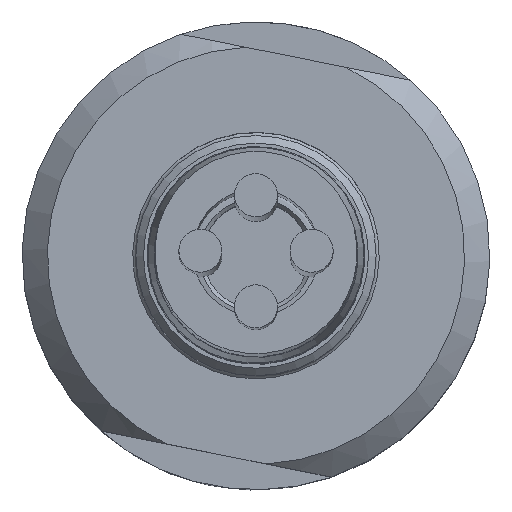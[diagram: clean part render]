
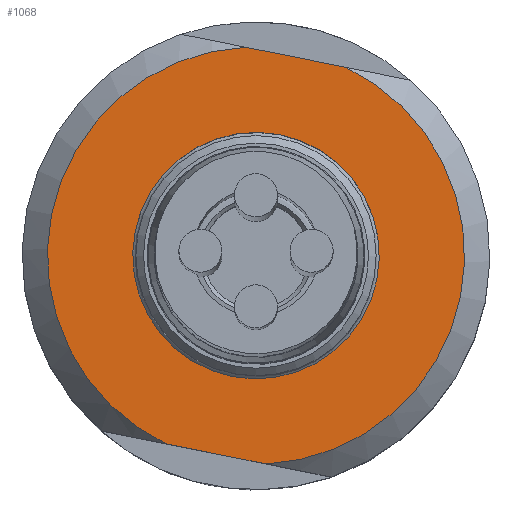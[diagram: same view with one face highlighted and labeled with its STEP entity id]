
A CAD part, top view. The second image highlights one B-rep face of the part: STEP entity #1068.
In plain terms, the highlighted planar face has unit normal (0, 0, 1).
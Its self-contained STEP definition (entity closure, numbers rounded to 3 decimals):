
#192 = DIRECTION ( 'NONE',  ( 0., 0., -1. ) ) ;
#487 = CARTESIAN_POINT ( 'NONE',  ( 3.551, 7.447, 20.3 ) ) ;
#552 = CARTESIAN_POINT ( 'NONE',  ( 0., 0., 20.3 ) ) ;
#571 = ORIENTED_EDGE ( 'NONE', *, *, #4164, .T. ) ;
#611 = CARTESIAN_POINT ( 'NONE',  ( 1.624, 8.089, 20.3 ) ) ;
#631 = VERTEX_POINT ( 'NONE', #980 ) ;
#737 = CIRCLE ( 'NONE', #4022, 8.25 ) ;
#772 = EDGE_CURVE ( 'NONE', #1467, #1528, #2133, .T. ) ;
#894 = ORIENTED_EDGE ( 'NONE', *, *, #4201, .T. ) ;
#939 = CARTESIAN_POINT ( 'NONE',  ( 0.402, -8.24, 20.3 ) ) ;
#951 = ORIENTED_EDGE ( 'NONE', *, *, #2205, .F. ) ;
#980 = CARTESIAN_POINT ( 'NONE',  ( -0.402, 8.24, 20.3 ) ) ;
#1017 = VECTOR ( 'NONE', #1393, 1000. ) ;
#1068 = ADVANCED_FACE ( 'NONE', ( #1281, #2674 ), #3693, .T. ) ;
#1143 = LINE ( 'NONE', #3544, #3350 ) ;
#1243 = EDGE_LOOP ( 'NONE', ( #571 ) ) ;
#1256 = DIRECTION ( 'NONE',  ( -0.98, 0.197, 0. ) ) ;
#1281 = FACE_BOUND ( 'NONE', #1243, .T. ) ;
#1393 = DIRECTION ( 'NONE',  ( 0.98, -0.197, 0. ) ) ;
#1467 = VERTEX_POINT ( 'NONE', #1642 ) ;
#1528 = VERTEX_POINT ( 'NONE', #939 ) ;
#1642 = CARTESIAN_POINT ( 'NONE',  ( -3.551, -7.447, 20.3 ) ) ;
#1822 = AXIS2_PLACEMENT_3D ( 'NONE', #3050, #4399, #1256 ) ;
#1859 = DIRECTION ( 'NONE',  ( -0.98, 0.197, 0. ) ) ;
#1903 = ORIENTED_EDGE ( 'NONE', *, *, #3647, .F. ) ;
#1924 = DIRECTION ( 'NONE',  ( -0.98, 0.197, 0. ) ) ;
#1991 = DIRECTION ( 'NONE',  ( 0., 0., 1. ) ) ;
#2133 = LINE ( 'NONE', #3075, #1017 ) ;
#2186 = VERTEX_POINT ( 'NONE', #487 ) ;
#2205 = EDGE_CURVE ( 'NONE', #2186, #1528, #737, .T. ) ;
#2441 = ORIENTED_EDGE ( 'NONE', *, *, #772, .T. ) ;
#2674 = FACE_OUTER_BOUND ( 'NONE', #3757, .T. ) ;
#2686 = CIRCLE ( 'NONE', #3468, 8.25 ) ;
#2853 = CARTESIAN_POINT ( 'NONE',  ( -4.78, 0.959, 20.3 ) ) ;
#2931 = DIRECTION ( 'NONE',  ( -0.98, 0.197, 0. ) ) ;
#2957 = CARTESIAN_POINT ( 'NONE',  ( 0., 0., 20.3 ) ) ;
#3050 = CARTESIAN_POINT ( 'NONE',  ( 0., 0., 20.3 ) ) ;
#3075 = CARTESIAN_POINT ( 'NONE',  ( -24.19, -3.304, 20.3 ) ) ;
#3187 = VERTEX_POINT ( 'NONE', #2853 ) ;
#3303 = DIRECTION ( 'NONE',  ( 0., 0., -1. ) ) ;
#3350 = VECTOR ( 'NONE', #2931, 1000. ) ;
#3361 = DIRECTION ( 'NONE',  ( 0.98, -0.197, 0. ) ) ;
#3468 = AXIS2_PLACEMENT_3D ( 'NONE', #552, #192, #1924 ) ;
#3544 = CARTESIAN_POINT ( 'NONE',  ( -21.041, 12.383, 20.3 ) ) ;
#3647 = EDGE_CURVE ( 'NONE', #1467, #631, #2686, .T. ) ;
#3693 = PLANE ( 'NONE',  #4198 ) ;
#3757 = EDGE_LOOP ( 'NONE', ( #1903, #2441, #951, #894 ) ) ;
#3909 = CIRCLE ( 'NONE', #1822, 4.875 ) ;
#4022 = AXIS2_PLACEMENT_3D ( 'NONE', #2957, #3303, #1859 ) ;
#4164 = EDGE_CURVE ( 'NONE', #3187, #3187, #3909, .T. ) ;
#4198 = AXIS2_PLACEMENT_3D ( 'NONE', #611, #1991, #3361 ) ;
#4201 = EDGE_CURVE ( 'NONE', #2186, #631, #1143, .T. ) ;
#4399 = DIRECTION ( 'NONE',  ( 0., 0., -1. ) ) ;
